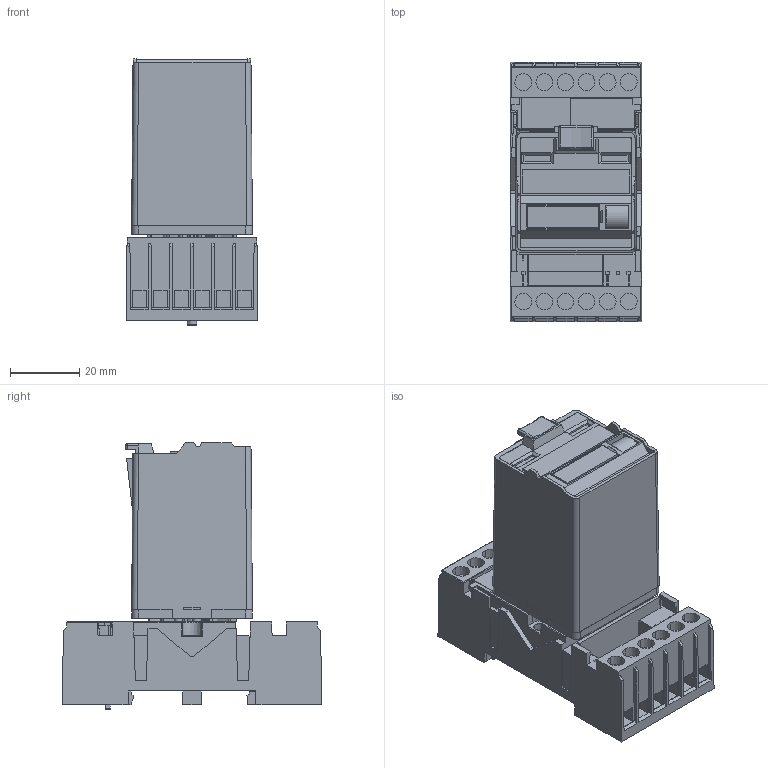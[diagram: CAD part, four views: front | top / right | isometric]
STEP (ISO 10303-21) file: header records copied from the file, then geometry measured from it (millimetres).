
FILE_DESCRIPTION (( 'STEP AP214' ), '1' );
FILE_NAME ('R3_plus_S3-M0R.STEP', '2024-04-09T09:41:00', ( '' ), ( '' ), 'SwSTEP 2.0', 'SolidWorks 2022', '' );
FILE_SCHEMA (( 'AUTOMOTIVE_DESIGN' ));
Length unit declared in the file: millimetre
Products named in the file (1): R3_plus_S3-M0R
Bounding box: 38 x 75 x 77.15 mm (x, y, z)
Volume: 110408 mm3; surface area: 31946.7 mm2
Topology: 1 solids, 28 shells, 1361 faces, 3709 edges, 2429 vertices
Faces by surface type: plane 1044, cylinder 239, cone 46, bspline 19, sphere 8, torus 5
Entity records: 58215 total; most frequent: CARTESIAN_POINT 9806, ORIENTED_EDGE 7386, DIRECTION 6344, EDGE_CURVE 3693, LINE 2838, VECTOR 2838, VERTEX_POINT 2429, AXIS2_PLACEMENT_3D 1753
